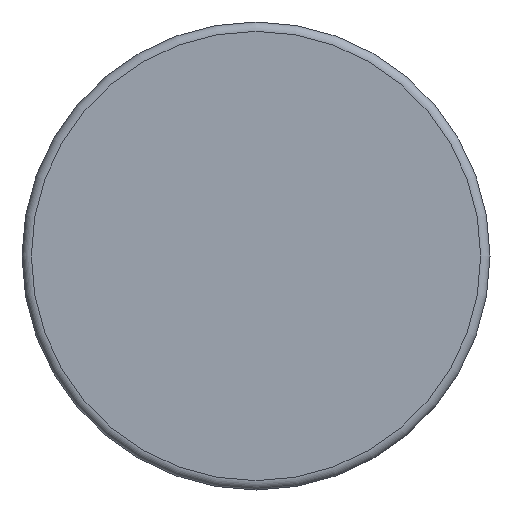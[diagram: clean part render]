
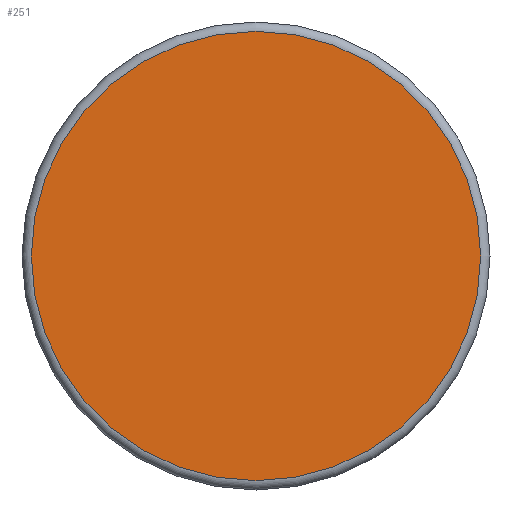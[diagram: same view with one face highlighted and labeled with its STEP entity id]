
A CAD part, front view. The second image highlights one B-rep face of the part: STEP entity #251.
In plain terms, the highlighted planar face has unit normal (0, -1, 0).
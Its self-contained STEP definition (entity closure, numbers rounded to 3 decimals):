
#251 = ADVANCED_FACE( '', ( #477 ), #478, .F. );
#477 = FACE_OUTER_BOUND( '', #677, .T. );
#478 = PLANE( '', #678 );
#677 = EDGE_LOOP( '', ( #1103 ) );
#678 = AXIS2_PLACEMENT_3D( '', #1104, #1105, #1106 );
#1103 = ORIENTED_EDGE( '', *, *, #1195, .T. );
#1104 = CARTESIAN_POINT( '', ( 24., 0., 0. ) );
#1105 = DIRECTION( '', ( 0., 1., 0. ) );
#1106 = DIRECTION( '', ( 0., 0., 1. ) );
#1195 = EDGE_CURVE( '', #1400, #1400, #1401, .T. );
#1400 = VERTEX_POINT( '', #1789 );
#1401 = CIRCLE( '', #1790, 24. );
#1789 = CARTESIAN_POINT( '', ( 0., 0., -24. ) );
#1790 = AXIS2_PLACEMENT_3D( '', #2087, #2088, #2089 );
#2087 = CARTESIAN_POINT( '', ( 0., 0., 0. ) );
#2088 = DIRECTION( '', ( 0., -1., 0. ) );
#2089 = DIRECTION( '', ( 0., 0., -1. ) );
